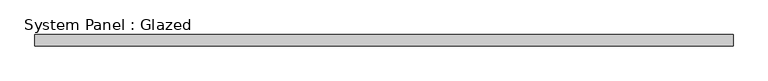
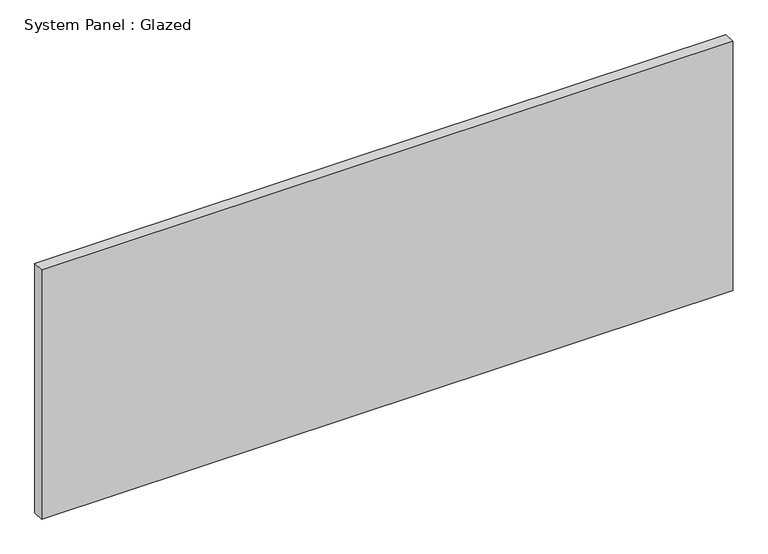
"""IFC4 building model written with IfcOpenShell, lengths in millimetres: plate geometry, System Panel : Glazed."""

from ifc_helpers import new_model, si_unit, origin, origin_with_axes, place, context, project, spatial, polyline, outline, extrude, source, transform, mapped, element, save


def system_panel_glazed_890278ca(model_context):
    return source(origin(), model_context, "Body", "SweptSolid", [
        extrude(outline(polyline([(755.0, -12.5), (-755.0, -12.5), (-755.0, 12.5), (755.0, 12.5), (755.0, -12.5)])), origin_with_axes(), (0.0, 0.0, 1.0), 575.0),
    ])


if __name__ == "__main__":
    model = new_model("IFC4")
    model_context = context("Model", 3, world=origin())
    ifc_project = project(units=[si_unit("LENGTHUNIT", "METRE", prefix="MILLI")], contexts=[model_context])
    site = spatial("IfcSite", under=ifc_project)
    building = spatial("IfcBuilding", under=site)
    placement = place(None, origin())
    system_panel_glazed_shape = system_panel_glazed_890278ca(model_context)
    element("IfcPlate", 1, ObjectType="System Panel : Glazed", at=placement, inside=building, context=model_context, shape_type="MappedRepresentation", body=[
        mapped(system_panel_glazed_shape, transform((0.0, 0.0, 0.0), x_axis=(1.0, 0.0, 0.0), y_axis=(0.0, 1.0, 0.0), z_axis=(0.0, 0.0, 1.0))),
    ])
    save(model, "model.ifc")
